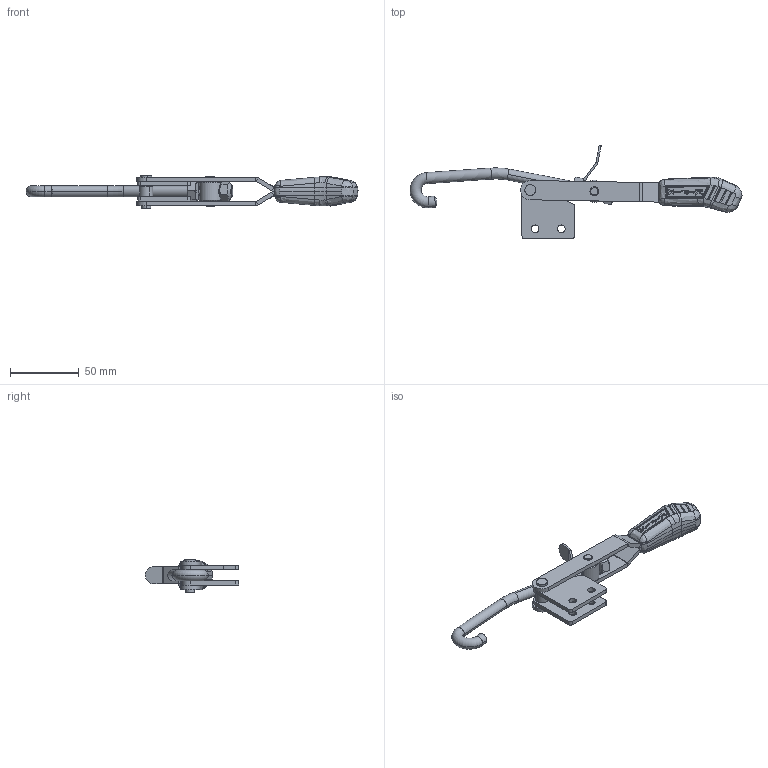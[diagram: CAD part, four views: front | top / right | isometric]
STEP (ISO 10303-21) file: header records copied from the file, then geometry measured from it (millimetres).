
FILE_DESCRIPTION (( 'STEP AP203' ), '1' );
FILE_NAME ('KF-153 R.STEP', '2018-06-12T17:39:00', ( 'Ricardo' ), ( '' ), 'SwSTEP 2.0', 'SolidWorks 2018', '' );
FILE_SCHEMA (( 'CONFIG_CONTROL_DESIGN' ));
Length unit declared in the file: millimetre
Products named in the file (12): 07.60005; 02.11103_Direita; 3670000100; 02.11103_Esquerda; KF-153 R; 03.20140; 05.20070; 16.20157; 11.50002; 11.50017; 15.10176; 01.10312
Assembly tree (12 placements, depth 2):
  KF-153 R
    01.10312  x2
    02.11103_Direita
    02.11103_Esquerda
    03.20140
    05.20070
    16.20157
    11.50002
    11.50017
    15.10176
    07.60005
    3670000100
Bounding box: 240.78 x 67.66 x 24.5 mm (x, y, z)
Volume: 48687.9 mm3; surface area: 31323.9 mm2
Topology: 12 solids, 12 shells, 823 faces, 2082 edges, 1298 vertices
Faces by surface type: bspline 269, cylinder 249, plane 219, sphere 52, cone 28, torus 6
Entity records: 32037 total; most frequent: CARTESIAN_POINT 14251, ORIENTED_EDGE 4008, DIRECTION 2681, EDGE_CURVE 2004, VERTEX_POINT 1254, AXIS2_PLACEMENT_3D 1004, EDGE_LOOP 838, FACE_OUTER_BOUND 791
